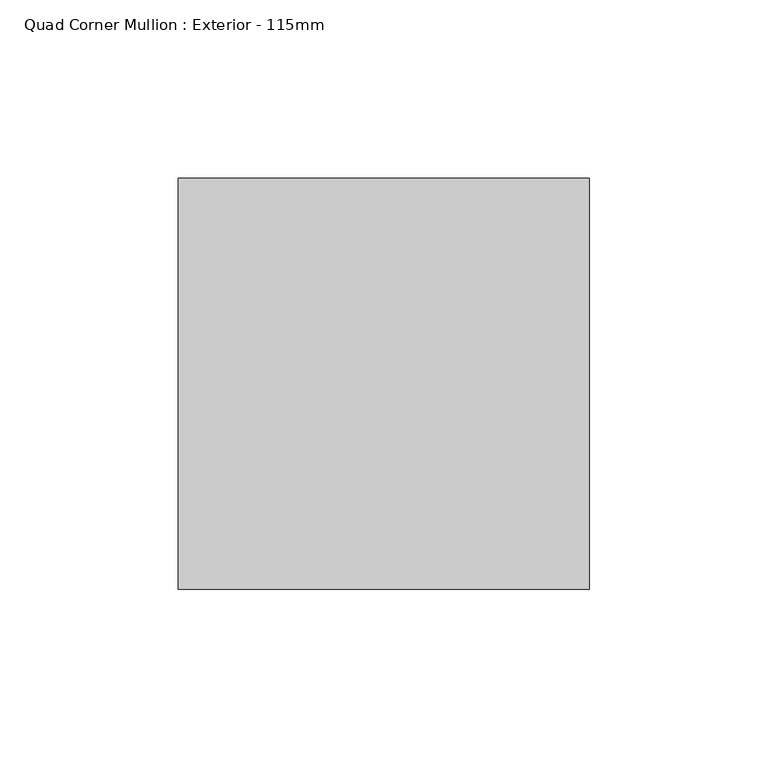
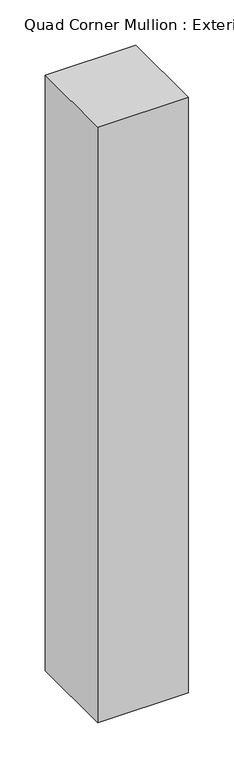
"""IFC4 building model written with IfcOpenShell, lengths in millimetres: member geometry, Quad Corner Mullion : Exterior - 115mm."""

from ifc_helpers import new_model, si_unit, frame, origin, place, context, project, spatial, polyline, outline, extrude, source, transform, mapped, element, save


def quad_corner_mullion_exterior_115mm_e95f2b65(model_context):
    return source(origin(), model_context, "Body", "SweptSolid", [
        extrude(outline(polyline([(7.5, 107.5), (7.5, -7.5), (-107.5, -7.5), (-107.5, 107.5), (7.5, 107.5)])), frame((0.0, 0.0, -800.0), z_axis=(0.0, 0.0, 1.0), x_axis=(1.0, 0.0, 0.0)), (0.0, 0.0, 1.0), 800.0),
    ])


if __name__ == "__main__":
    model = new_model("IFC4")
    model_context = context("Model", 3, world=origin())
    ifc_project = project(units=[si_unit("LENGTHUNIT", "METRE", prefix="MILLI")], contexts=[model_context])
    site = spatial("IfcSite", under=ifc_project)
    building = spatial("IfcBuilding", under=site)
    placement = place(None, origin())
    quad_corner_mullion_exterior_115mm_shape = quad_corner_mullion_exterior_115mm_e95f2b65(model_context)
    element("IfcMember", 1, ObjectType="Quad Corner Mullion : Exterior - 115mm", at=placement, inside=building, context=model_context, shape_type="MappedRepresentation", body=[
        mapped(quad_corner_mullion_exterior_115mm_shape, transform((0.0, 0.0, 0.0), x_axis=(1.0, 0.0, 0.0), y_axis=(0.0, 1.0, 0.0), z_axis=(0.0, 0.0, 1.0))),
    ])
    save(model, "model.ifc")
